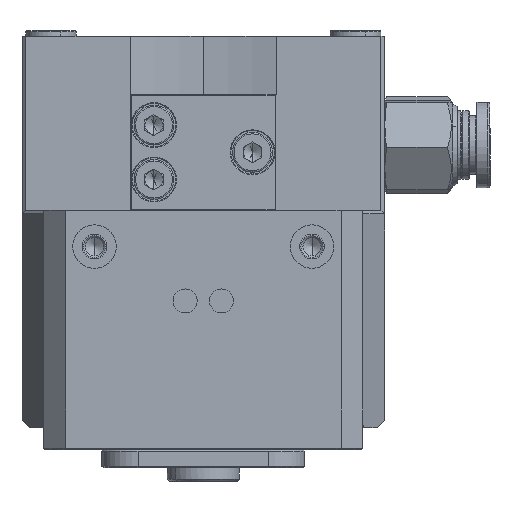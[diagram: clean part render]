
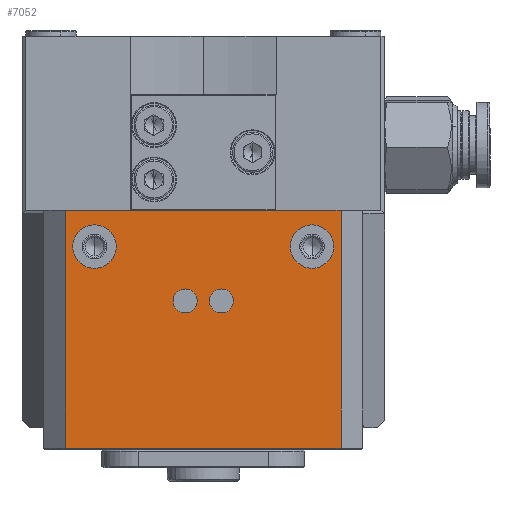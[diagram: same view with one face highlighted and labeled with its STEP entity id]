
A CAD part, left-side view. The second image highlights one B-rep face of the part: STEP entity #7052.
In plain terms, the highlighted planar face has unit normal (-1, 0, 0).
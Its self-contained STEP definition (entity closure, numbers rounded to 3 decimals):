
#401 = CARTESIAN_POINT ( 'NONE',  ( -83.147, 12.841, -9.5 ) ) ;
#1799 = EDGE_CURVE ( 'NONE', #9023, #2400, #44042, .T. ) ;
#2210 = CARTESIAN_POINT ( 'NONE',  ( -83.147, -7.659, -2. ) ) ;
#2400 = VERTEX_POINT ( 'NONE', #43160 ) ;
#2409 = EDGE_LOOP ( 'NONE', ( #35223, #19022 ) ) ;
#2492 = CARTESIAN_POINT ( 'NONE',  ( -83.147, -8.659, -29.8 ) ) ;
#2618 = CARTESIAN_POINT ( 'NONE',  ( -83.147, -11.659, -29.8 ) ) ;
#2765 = DIRECTION ( 'NONE',  ( -1., 0., 0. ) ) ;
#3185 = AXIS2_PLACEMENT_3D ( 'NONE', #39240, #31239, #4712 ) ;
#3438 = CIRCLE ( 'NONE', #46176, 3. ) ;
#3812 = EDGE_LOOP ( 'NONE', ( #43083, #20924 ) ) ;
#3879 = DIRECTION ( 'NONE',  ( 0., 0., 1. ) ) ;
#4235 = ORIENTED_EDGE ( 'NONE', *, *, #17261, .T. ) ;
#4676 = DIRECTION ( 'NONE',  ( 0., 1., 0. ) ) ;
#4712 = DIRECTION ( 'NONE',  ( 0., 1., 0. ) ) ;
#5076 = ORIENTED_EDGE ( 'NONE', *, *, #48933, .F. ) ;
#5079 = CARTESIAN_POINT ( 'NONE',  ( -83.147, 22.341, -2. ) ) ;
#5264 = VECTOR ( 'NONE', #6359, 1000. ) ;
#5305 = VERTEX_POINT ( 'NONE', #13820 ) ;
#5784 = DIRECTION ( 'NONE',  ( -1., 0., 0. ) ) ;
#5885 = AXIS2_PLACEMENT_3D ( 'NONE', #18369, #2765, #6343 ) ;
#6018 = VERTEX_POINT ( 'NONE', #2210 ) ;
#6343 = DIRECTION ( 'NONE',  ( 0., 1., 0. ) ) ;
#6359 = DIRECTION ( 'NONE',  ( 0., 0., 1. ) ) ;
#6373 = LINE ( 'NONE', #8684, #46517 ) ;
#6485 = VECTOR ( 'NONE', #41383, 1000. ) ;
#7052 = ADVANCED_FACE ( 'NONE', ( #31140, #18964, #21431, #11667, #28106 ), #27148, .F. ) ;
#7666 = CIRCLE ( 'NONE', #3185, 1.65 ) ;
#8534 = DIRECTION ( 'NONE',  ( 0., 1., 0. ) ) ;
#8684 = CARTESIAN_POINT ( 'NONE',  ( -83.147, 29.341, -30. ) ) ;
#9023 = VERTEX_POINT ( 'NONE', #48992 ) ;
#9924 = EDGE_CURVE ( 'NONE', #17076, #28566, #27767, .T. ) ;
#10135 = EDGE_CURVE ( 'NONE', #24037, #19261, #28951, .T. ) ;
#10569 = CARTESIAN_POINT ( 'NONE',  ( -83.147, 28.341, -2. ) ) ;
#10913 = AXIS2_PLACEMENT_3D ( 'NONE', #18277, #18761, #26452 ) ;
#11667 = FACE_BOUND ( 'NONE', #3812, .T. ) ;
#11736 = AXIS2_PLACEMENT_3D ( 'NONE', #15575, #46080, #3879 ) ;
#11967 = DIRECTION ( 'NONE',  ( -1., 0., 0. ) ) ;
#12599 = CARTESIAN_POINT ( 'NONE',  ( -83.147, 12.841, -9.5 ) ) ;
#12798 = EDGE_CURVE ( 'NONE', #37704, #22349, #16428, .T. ) ;
#13820 = CARTESIAN_POINT ( 'NONE',  ( -83.147, 29.341, 3. ) ) ;
#14164 = EDGE_CURVE ( 'NONE', #5305, #24621, #6373, .T. ) ;
#14378 = AXIS2_PLACEMENT_3D ( 'NONE', #30215, #42098, #50444 ) ;
#14503 = CIRCLE ( 'NONE', #10913, 3. ) ;
#15575 = CARTESIAN_POINT ( 'NONE',  ( -83.147, -11.659, -30. ) ) ;
#16331 = DIRECTION ( 'NONE',  ( 0., 1., 0. ) ) ;
#16428 = CIRCLE ( 'NONE', #5885, 1.65 ) ;
#16503 = CARTESIAN_POINT ( 'NONE',  ( -83.147, 25.341, -2. ) ) ;
#16644 = EDGE_CURVE ( 'NONE', #6018, #41897, #14503, .T. ) ;
#17076 = VERTEX_POINT ( 'NONE', #10569 ) ;
#17261 = EDGE_CURVE ( 'NONE', #19261, #5305, #27758, .T. ) ;
#17711 = EDGE_CURVE ( 'NONE', #28566, #17076, #3438, .T. ) ;
#18031 = EDGE_CURVE ( 'NONE', #22349, #37704, #7666, .T. ) ;
#18277 = CARTESIAN_POINT ( 'NONE',  ( -83.147, -4.659, -2. ) ) ;
#18369 = CARTESIAN_POINT ( 'NONE',  ( -83.147, 7.841, -9.5 ) ) ;
#18761 = DIRECTION ( 'NONE',  ( -1., 0., 0. ) ) ;
#18964 = FACE_BOUND ( 'NONE', #28549, .T. ) ;
#19022 = ORIENTED_EDGE ( 'NONE', *, *, #18031, .F. ) ;
#19261 = VERTEX_POINT ( 'NONE', #38729 ) ;
#20924 = ORIENTED_EDGE ( 'NONE', *, *, #17711, .F. ) ;
#21431 = FACE_BOUND ( 'NONE', #2409, .T. ) ;
#22349 = VERTEX_POINT ( 'NONE', #24061 ) ;
#23135 = DIRECTION ( 'NONE',  ( 0., 1., 0. ) ) ;
#24037 = VERTEX_POINT ( 'NONE', #2492 ) ;
#24061 = CARTESIAN_POINT ( 'NONE',  ( -83.147, 6.191, -9.5 ) ) ;
#24621 = VERTEX_POINT ( 'NONE', #38745 ) ;
#26452 = DIRECTION ( 'NONE',  ( 0., 1., 0. ) ) ;
#27148 = PLANE ( 'NONE',  #11736 ) ;
#27525 = ORIENTED_EDGE ( 'NONE', *, *, #16644, .F. ) ;
#27758 = LINE ( 'NONE', #42505, #48504 ) ;
#27767 = CIRCLE ( 'NONE', #46770, 3. ) ;
#27805 = AXIS2_PLACEMENT_3D ( 'NONE', #401, #47173, #8534 ) ;
#28106 = FACE_BOUND ( 'NONE', #42560, .T. ) ;
#28549 = EDGE_LOOP ( 'NONE', ( #31762, #43677 ) ) ;
#28566 = VERTEX_POINT ( 'NONE', #5079 ) ;
#28951 = LINE ( 'NONE', #29806, #5264 ) ;
#29055 = DIRECTION ( 'NONE',  ( 0., 1., 0. ) ) ;
#29207 = EDGE_CURVE ( 'NONE', #24621, #24037, #32611, .T. ) ;
#29806 = CARTESIAN_POINT ( 'NONE',  ( -83.147, -8.659, -30. ) ) ;
#30215 = CARTESIAN_POINT ( 'NONE',  ( -83.147, -4.659, -2. ) ) ;
#31140 = FACE_OUTER_BOUND ( 'NONE', #50145, .T. ) ;
#31239 = DIRECTION ( 'NONE',  ( -1., 0., 0. ) ) ;
#31762 = ORIENTED_EDGE ( 'NONE', *, *, #37893, .F. ) ;
#32611 = LINE ( 'NONE', #2618, #6485 ) ;
#33265 = ORIENTED_EDGE ( 'NONE', *, *, #29207, .T. ) ;
#35223 = ORIENTED_EDGE ( 'NONE', *, *, #12798, .F. ) ;
#37704 = VERTEX_POINT ( 'NONE', #45526 ) ;
#37893 = EDGE_CURVE ( 'NONE', #2400, #9023, #40994, .T. ) ;
#38729 = CARTESIAN_POINT ( 'NONE',  ( -83.147, -8.659, 3. ) ) ;
#38745 = CARTESIAN_POINT ( 'NONE',  ( -83.147, 29.341, -29.8 ) ) ;
#39240 = CARTESIAN_POINT ( 'NONE',  ( -83.147, 7.841, -9.5 ) ) ;
#40704 = ORIENTED_EDGE ( 'NONE', *, *, #10135, .T. ) ;
#40775 = CARTESIAN_POINT ( 'NONE',  ( -83.147, -1.659, -2. ) ) ;
#40994 = CIRCLE ( 'NONE', #27805, 1.65 ) ;
#41383 = DIRECTION ( 'NONE',  ( 0., -1., 0. ) ) ;
#41897 = VERTEX_POINT ( 'NONE', #40775 ) ;
#42098 = DIRECTION ( 'NONE',  ( -1., 0., 0. ) ) ;
#42505 = CARTESIAN_POINT ( 'NONE',  ( -83.147, -11.659, 3. ) ) ;
#42560 = EDGE_LOOP ( 'NONE', ( #5076, #27525 ) ) ;
#43083 = ORIENTED_EDGE ( 'NONE', *, *, #9924, .F. ) ;
#43160 = CARTESIAN_POINT ( 'NONE',  ( -83.147, 14.491, -9.5 ) ) ;
#43395 = DIRECTION ( 'NONE',  ( -1., 0., 0. ) ) ;
#43677 = ORIENTED_EDGE ( 'NONE', *, *, #1799, .F. ) ;
#44042 = CIRCLE ( 'NONE', #46733, 1.65 ) ;
#45046 = CARTESIAN_POINT ( 'NONE',  ( -83.147, 25.341, -2. ) ) ;
#45526 = CARTESIAN_POINT ( 'NONE',  ( -83.147, 9.491, -9.5 ) ) ;
#46080 = DIRECTION ( 'NONE',  ( 1., 0., 0. ) ) ;
#46176 = AXIS2_PLACEMENT_3D ( 'NONE', #45046, #5784, #29055 ) ;
#46517 = VECTOR ( 'NONE', #47830, 1000. ) ;
#46733 = AXIS2_PLACEMENT_3D ( 'NONE', #12599, #43395, #16331 ) ;
#46770 = AXIS2_PLACEMENT_3D ( 'NONE', #16503, #11967, #4676 ) ;
#47173 = DIRECTION ( 'NONE',  ( -1., 0., 0. ) ) ;
#47711 = CIRCLE ( 'NONE', #14378, 3. ) ;
#47830 = DIRECTION ( 'NONE',  ( 0., 0., -1. ) ) ;
#48364 = ORIENTED_EDGE ( 'NONE', *, *, #14164, .T. ) ;
#48504 = VECTOR ( 'NONE', #23135, 1000. ) ;
#48933 = EDGE_CURVE ( 'NONE', #41897, #6018, #47711, .T. ) ;
#48992 = CARTESIAN_POINT ( 'NONE',  ( -83.147, 11.191, -9.5 ) ) ;
#50145 = EDGE_LOOP ( 'NONE', ( #48364, #33265, #40704, #4235 ) ) ;
#50444 = DIRECTION ( 'NONE',  ( 0., 1., 0. ) ) ;
